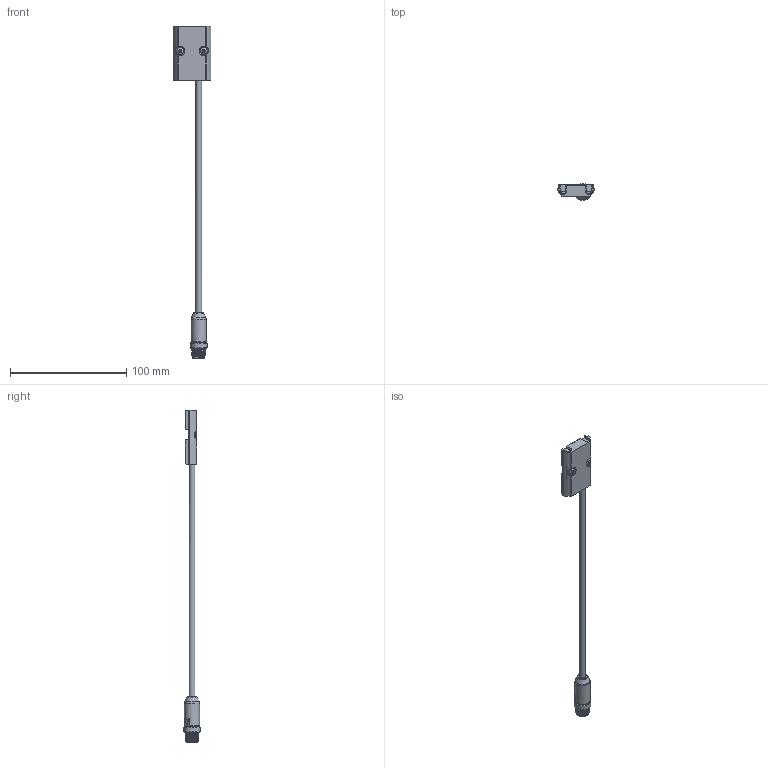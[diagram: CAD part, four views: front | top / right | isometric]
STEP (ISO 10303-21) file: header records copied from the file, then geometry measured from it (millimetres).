
FILE_DESCRIPTION(/* description */ (''),/* implementation_level */ '2;1');
FILE_NAME(/* name */ '5P.stp',/* time_stamp */ '2022-12-01T17:00:09+01:00',/* author */ (''),/* organization */ (''),/* preprocessor_version */ 'ST-DEVELOPER v16.701',/* originating_system */ 'SIEMENS PLM Software NX 1946',/* authorisation */ '');
FILE_SCHEMA (('AP203_CONFIGURATION_CONTROLLED_3D_DESIGN_OF_MECHANICAL_PARTS_AND_ASSEMBLIES_MIM_LF { 1 0 10303 403 2 1 2}'));
Length unit declared in the file: millimetre
Products named in the file (1): MRos3D04D64D7erh
Bounding box: 32 x 14.49 x 285.2 mm (x, y, z)
Volume: 12008 mm3; surface area: 15415.7 mm2
Topology: 1 solids, 2 shells, 406 faces, 1081 edges, 681 vertices
Faces by surface type: plane 218, cylinder 80, cone 52, sphere 21, bspline 21, torus 14
Full cylindrical faces by diameter (mm): 2.8 x1, 5 x2, 5.5 x2, 6 x1, 8.25 x1, 9.5 x1, 9.7 x1, 10.35 x1, 10.6 x3, 10.8 x1, 13 x1, 14.5 x1
Entity records: 13964 total; most frequent: CARTESIAN_POINT 4050, DIRECTION 2052, ORIENTED_EDGE 2040, EDGE_CURVE 1020, AXIS2_PLACEMENT_3D 750, VERTEX_POINT 668, LINE 552, VECTOR 552
